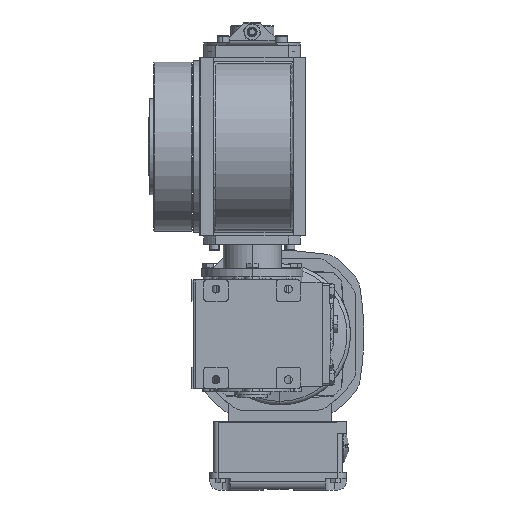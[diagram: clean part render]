
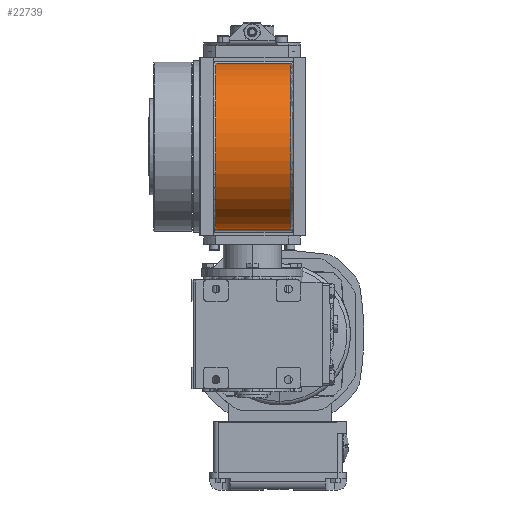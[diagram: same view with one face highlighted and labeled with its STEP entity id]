
A CAD part, left-side view. The second image highlights one B-rep face of the part: STEP entity #22739.
In plain terms, the highlighted cylindrical face has radius 69 mm (diameter 138 mm), a partial arc.
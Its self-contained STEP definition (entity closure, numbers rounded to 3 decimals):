
#546 = AXIS2_PLACEMENT_3D ( 'NONE', #24173, #12759, #30179 ) ;
#9145 = DIRECTION ( 'NONE',  ( 0., 0., 1. ) ) ;
#9373 = CIRCLE ( 'NONE', #73615, 69. ) ;
#9890 = DIRECTION ( 'NONE',  ( 0., -1., 0. ) ) ;
#12002 = VERTEX_POINT ( 'NONE', #70226 ) ;
#12759 = DIRECTION ( 'NONE',  ( 0., -1., 0. ) ) ;
#14499 = EDGE_CURVE ( 'NONE', #18648, #36038, #32938, .T. ) ;
#16616 = EDGE_CURVE ( 'NONE', #61678, #12002, #70446, .T. ) ;
#16923 = CARTESIAN_POINT ( 'NONE',  ( -42.511, 10.762, 109.5 ) ) ;
#17696 = FACE_OUTER_BOUND ( 'NONE', #73781, .T. ) ;
#18648 = VERTEX_POINT ( 'NONE', #59944 ) ;
#20081 = ORIENTED_EDGE ( 'NONE', *, *, #16616, .T. ) ;
#21222 = EDGE_CURVE ( 'NONE', #12002, #18648, #9373, .T. ) ;
#22739 = ADVANCED_FACE ( 'NONE', ( #17696 ), #40124, .T. ) ;
#23775 = DIRECTION ( 'NONE',  ( 0., 1., 0. ) ) ;
#24173 = CARTESIAN_POINT ( 'NONE',  ( -38.624, 10.762, 40.609 ) ) ;
#24912 = CIRCLE ( 'NONE', #28527, 69. ) ;
#28527 = AXIS2_PLACEMENT_3D ( 'NONE', #44811, #33323, #39022 ) ;
#29370 = EDGE_CURVE ( 'NONE', #36038, #61678, #24912, .T. ) ;
#30179 = DIRECTION ( 'NONE',  ( 0., 0., -1. ) ) ;
#31811 = ORIENTED_EDGE ( 'NONE', *, *, #14499, .T. ) ;
#32938 = LINE ( 'NONE', #49733, #61823 ) ;
#33323 = DIRECTION ( 'NONE',  ( 0., 1., 0. ) ) ;
#36038 = VERTEX_POINT ( 'NONE', #69334 ) ;
#37622 = CARTESIAN_POINT ( 'NONE',  ( -38.624, 8.762, 40.609 ) ) ;
#39022 = DIRECTION ( 'NONE',  ( 0., 0., 1. ) ) ;
#39063 = VECTOR ( 'NONE', #23775, 1000. ) ;
#40124 = CYLINDRICAL_SURFACE ( 'NONE', #546, 69. ) ;
#40299 = ORIENTED_EDGE ( 'NONE', *, *, #29370, .T. ) ;
#42439 = CARTESIAN_POINT ( 'NONE',  ( -42.511, -53.238, 109.5 ) ) ;
#44811 = CARTESIAN_POINT ( 'NONE',  ( -38.624, -53.238, 40.609 ) ) ;
#49733 = CARTESIAN_POINT ( 'NONE',  ( -42.511, 10.762, -28.281 ) ) ;
#54328 = ORIENTED_EDGE ( 'NONE', *, *, #21222, .T. ) ;
#59944 = CARTESIAN_POINT ( 'NONE',  ( -42.511, 8.762, -28.281 ) ) ;
#61678 = VERTEX_POINT ( 'NONE', #42439 ) ;
#61823 = VECTOR ( 'NONE', #66759, 1000. ) ;
#66759 = DIRECTION ( 'NONE',  ( 0., -1., 0. ) ) ;
#69334 = CARTESIAN_POINT ( 'NONE',  ( -42.511, -53.238, -28.281 ) ) ;
#70226 = CARTESIAN_POINT ( 'NONE',  ( -42.511, 8.762, 109.5 ) ) ;
#70446 = LINE ( 'NONE', #16923, #39063 ) ;
#73615 = AXIS2_PLACEMENT_3D ( 'NONE', #37622, #9890, #9145 ) ;
#73781 = EDGE_LOOP ( 'NONE', ( #40299, #20081, #54328, #31811 ) ) ;
